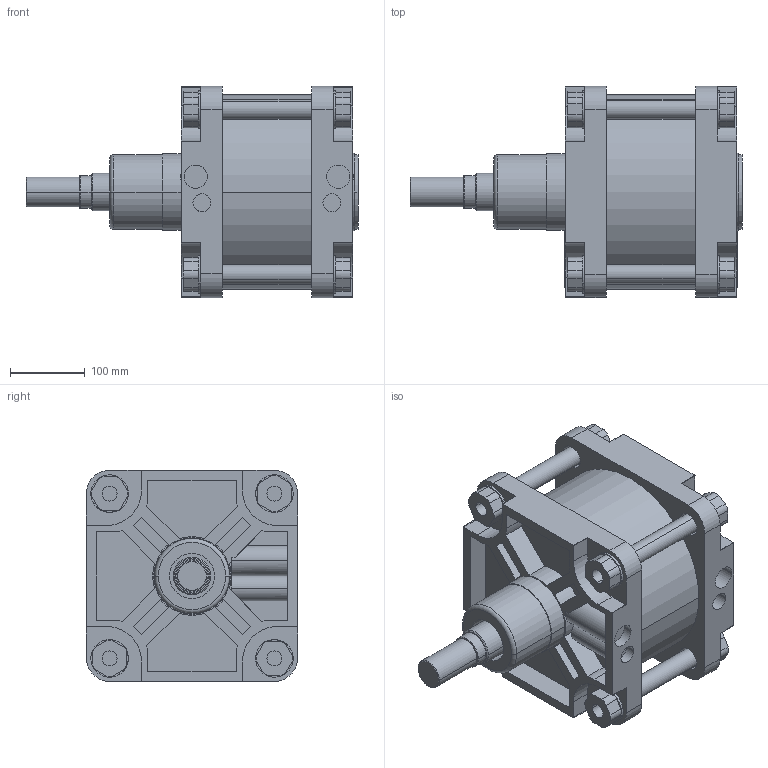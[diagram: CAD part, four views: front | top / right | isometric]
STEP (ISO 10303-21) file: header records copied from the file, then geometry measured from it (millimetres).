
FILE_DESCRIPTION(('CATIA V5 STEP Exchange'),'2;1');
FILE_NAME('D:\stp file for catalog\PNC\250\PNC 250-50-25-00.stp','2015-10-21T09:16:36+00:00',('none'),('none'),'Version 5-6 Release 2012','CATIA V5 STEP AP203','none');
FILE_SCHEMA(('CONFIG_CONTROL_DESIGN'));
Length unit declared in the file: millimetre
Products named in the file (1): PNC 250-50-25-00
Assembly tree (2 placements, depth 2):
  PNC 250-50-25-00
    #58
    #15273
Bounding box: 443 x 282 x 282 mm (x, y, z)
Volume: 9495297.3 mm3; surface area: 1058817.3 mm2
Topology: 2 solids, 2 shells, 556 faces, 1428 edges, 944 vertices
Faces by surface type: plane 316, cylinder 196, cone 42, torus 2
Entity records: 15719 total; most frequent: CARTESIAN_POINT 3332, ORIENTED_EDGE 2856, DIRECTION 1917, EDGE_CURVE 1428, VERTEX_POINT 944, VECTOR 904, LINE 904, AXIS2_PLACEMENT_3D 712
